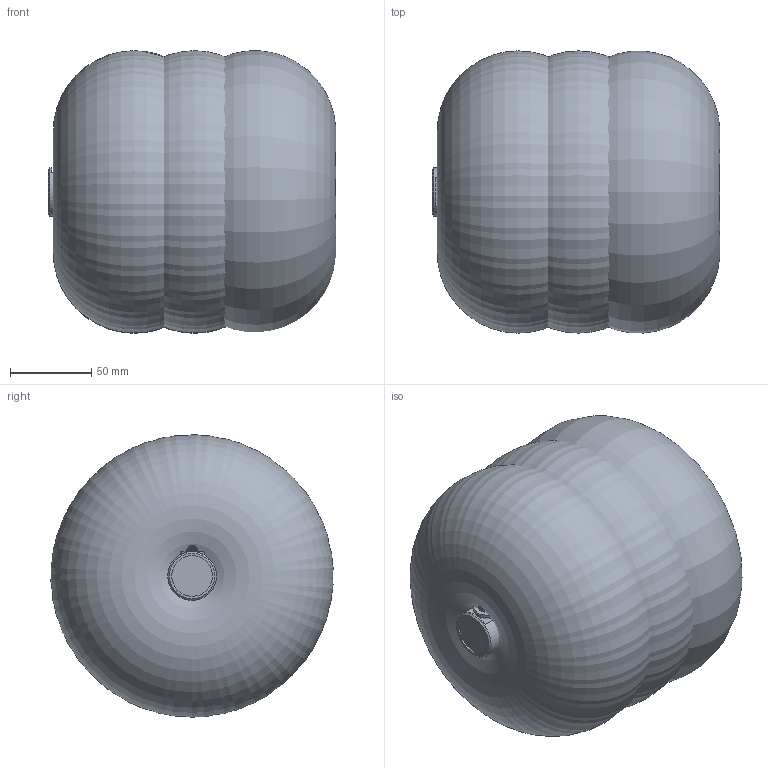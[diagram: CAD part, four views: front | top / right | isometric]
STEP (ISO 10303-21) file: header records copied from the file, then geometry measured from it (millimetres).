
FILE_DESCRIPTION(/* description */ ('Alibre Inc.'),/* implementation_level */ '2;1');
FILE_NAME(/* name */ 'export1',/* time_stamp */ '2014-08-11T10:46:43+02:00',/* author */ (''),/* organization */ (''),/* preprocessor_version */ 'ST-DEVELOPER v14',/* originating_system */ 'Alibre',/* authorisation */ '');
FILE_SCHEMA (('CONFIG_CONTROL_DESIGN'));
Length unit declared in the file: centimetre
Products named in the file (6): ID_1; ID_2; ID_3; ID_4
Bounding box: 176.88 x 173.81 x 173.96 mm (x, y, z)
Surface area: 415151.8 mm2
Topology: 8 solids, 8 shells, 163 faces, 384 edges, 240 vertices
Faces by surface type: plane 64, cylinder 53, bspline 23, torus 14, cone 9
Full cylindrical faces by diameter (mm): 0.5 x8, 4 x1, 8 x2, 10 x4, 11.5 x1, 13 x1, 14.376 x1, 24.544 x1, 25 x1, 30 x1
Entity records: 15192 total; most frequent: CARTESIAN_POINT 11644, ORIENTED_EDGE 680, DIRECTION 432, EDGE_CURVE 335, VERTEX_POINT 224, FACE_BOUND 208, EDGE_LOOP 207, AXIS2_PLACEMENT_3D 194
